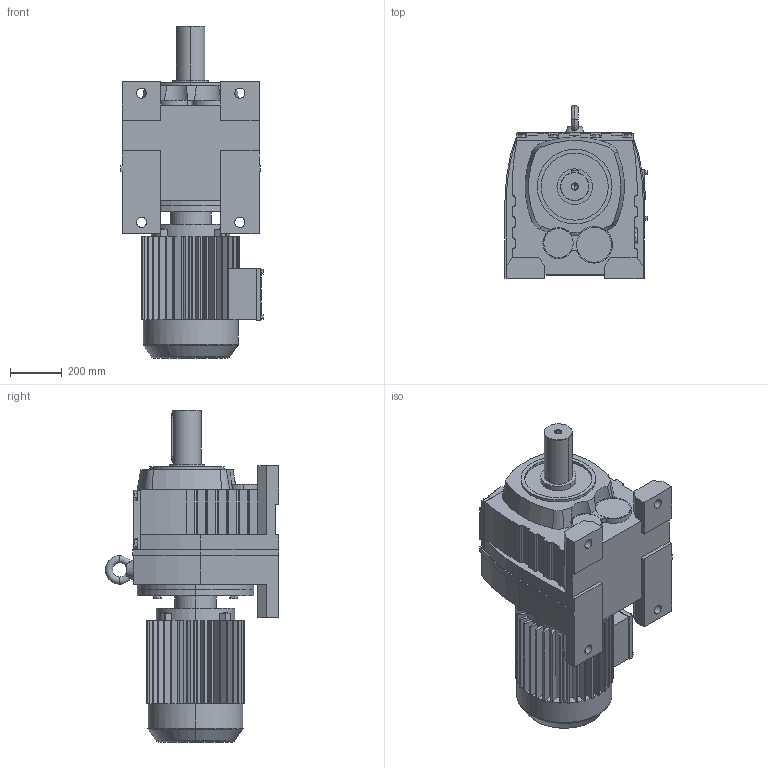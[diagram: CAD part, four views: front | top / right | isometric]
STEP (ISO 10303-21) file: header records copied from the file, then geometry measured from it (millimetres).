
FILE_DESCRIPTION(('Open CASCADE Model'),'2;1');
FILE_NAME('Open CASCADE Shape Model','2021-06-26T16:33:05',('Author'),( 'Open CASCADE'),'Open CASCADE STEP processor 6.3','Open CASCADE 6.3' ,'Unknown');
FILE_SCHEMA(('AUTOMOTIVE_DESIGN_CC2 { 1 2 10303 214 -1 1 5 4 }'));
Length unit declared in the file: millimetre
Products named in the file (3): 1_R147-Y180M; R37‵167_147.step; 萇儂_450_Y180M.step
Assembly tree (2 placements, depth 2):
  1_R147-Y180M
    R37‵167_147.step
    萇儂_450_Y180M.step
Bounding box: 550 x 670 x 1285 mm (x, y, z)
Volume: 176264414.7 mm3; surface area: 3833717.9 mm2
Topology: 2 solids, 2 shells, 736 faces, 1954 edges, 1263 vertices
Faces by surface type: plane 521, cylinder 185, cone 20, torus 10
Entity records: 51405 total; most frequent: CARTESIAN_POINT 14122, DIRECTION 6502, ORIENTED_EDGE 3904, PCURVE 3904, DEFINITIONAL_REPRESENTATION 3904, LINE 3641, VECTOR 3641, EDGE_CURVE 1952
